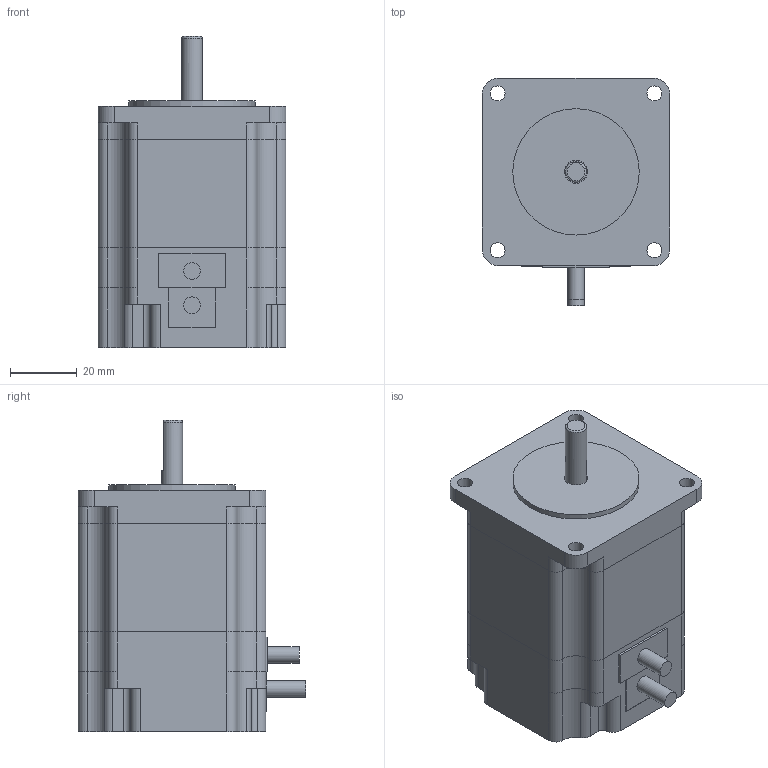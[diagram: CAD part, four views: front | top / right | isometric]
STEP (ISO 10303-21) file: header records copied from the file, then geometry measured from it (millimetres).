
FILE_DESCRIPTION(/* description */ (''),/* implementation_level */ '2;1');
FILE_NAME(/* name */ 'STP-59D3-Y17-26910.stp',/* time_stamp */ '2018-09-03T10:42:54+08:00',/* author */ (''),/* organization */ (''),/* preprocessor_version */ 'ST-DEVELOPER v11',/* originating_system */ 'SIEMENS UGS NX 6.0',/* authorisation */ '');
FILE_SCHEMA (('CONFIG_CONTROL_DESIGN'));
Length unit declared in the file: millimetre
Products named in the file (1): STP-59D3-Y17-26910
Bounding box: 56.4 x 68.4 x 93.5 mm (x, y, z)
Volume: 212166.6 mm3; surface area: 33927.4 mm2
Topology: 3 solids, 3 shells, 124 faces, 337 edges, 225 vertices
Faces by surface type: cylinder 73, plane 50, torus 1
Full cylindrical faces by diameter (mm): 4.5 x4, 5 x2, 6.35 x1, 7 x1, 38 x1
Entity records: 4043 total; most frequent: DIRECTION 729, CARTESIAN_POINT 708, ORIENTED_EDGE 650, EDGE_CURVE 325, AXIS2_PLACEMENT_3D 281, VERTEX_POINT 222, LINE 167, VECTOR 167
